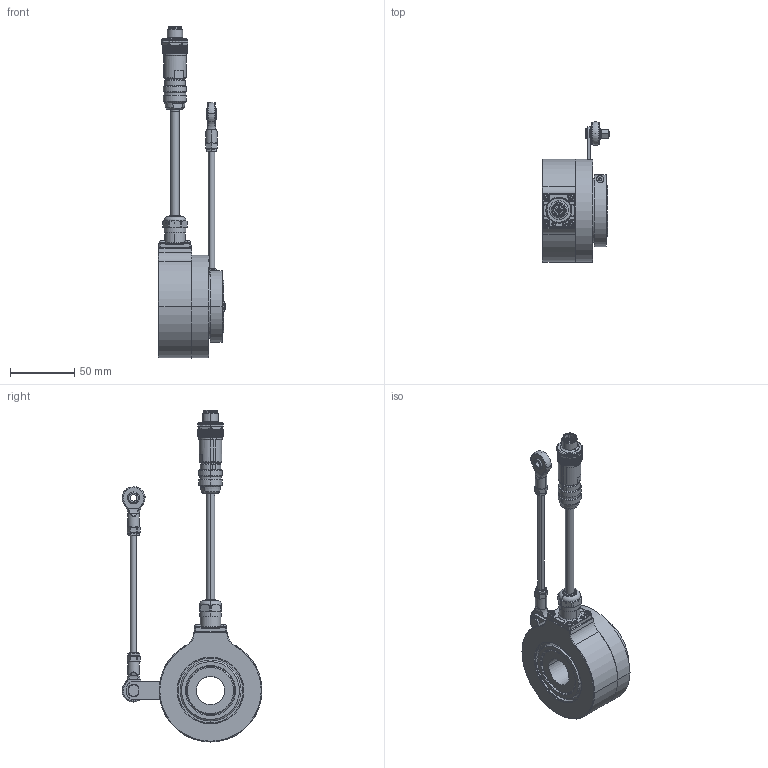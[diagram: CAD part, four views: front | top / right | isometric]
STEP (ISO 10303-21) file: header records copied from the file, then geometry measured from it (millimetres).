
FILE_DESCRIPTION (( 'STEP AP203' ), '1' );
FILE_NAME ('K80I.OXX.XXXXX.XH2786A.6XR13.XXXX.step', '2025-12-09T13:01:04', ( '' ), ( '' ), 'SwSTEP 2.0', 'SolidWorks 2021', '' );
FILE_SCHEMA (( 'CONFIG_CONTROL_DESIGN' ));
Length unit declared in the file: millimetre
Products named in the file (1): K80I.OXX.XXXXX.XH2786A.6XR13.XXXX
Bounding box: 52.6 x 108.97 x 258.56 mm (x, y, z)
Volume: 236988.3 mm3; surface area: 88079.7 mm2
Topology: 30 solids, 30 shells, 1965 faces, 4880 edges, 2988 vertices
Faces by surface type: plane 744, cylinder 628, cone 376, bspline 112, torus 75, sphere 30
Entity records: 62912 total; most frequent: CARTESIAN_POINT 17582, ORIENTED_EDGE 9660, DIRECTION 9343, EDGE_CURVE 4830, AXIS2_PLACEMENT_3D 3707, VERTEX_POINT 2982, EDGE_LOOP 2064, ADVANCED_FACE 1965
